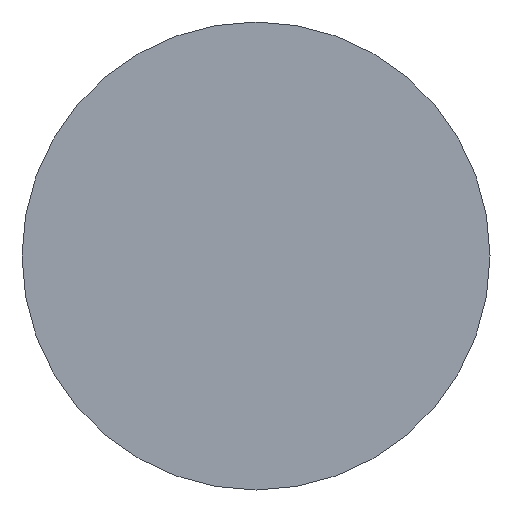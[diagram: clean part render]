
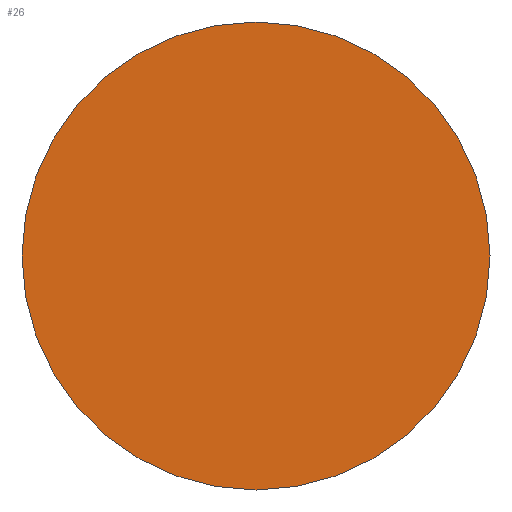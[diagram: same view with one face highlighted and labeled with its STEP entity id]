
A CAD part, front view. The second image highlights one B-rep face of the part: STEP entity #26.
In plain terms, the highlighted planar face has unit normal (0, -1, 0).
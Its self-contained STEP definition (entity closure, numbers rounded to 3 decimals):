
#3 = EDGE_CURVE ( 'NONE', #118, #5, #77, .T. ) ;
#5 = VERTEX_POINT ( 'NONE', #42 ) ;
#14 = ORIENTED_EDGE ( 'NONE', *, *, #125, .F. ) ;
#15 = DIRECTION ( 'NONE',  ( 0., 1., 0. ) ) ;
#22 = AXIS2_PLACEMENT_3D ( 'NONE', #32, #51, #72 ) ;
#26 = ADVANCED_FACE ( 'NONE', ( #84 ), #101, .F. ) ;
#27 = AXIS2_PLACEMENT_3D ( 'NONE', #102, #46, #114 ) ;
#32 = CARTESIAN_POINT ( 'NONE',  ( 0., 0., 0. ) ) ;
#38 = ORIENTED_EDGE ( 'NONE', *, *, #3, .F. ) ;
#41 = EDGE_LOOP ( 'NONE', ( #38, #14 ) ) ;
#42 = CARTESIAN_POINT ( 'NONE',  ( 0., 0., 1.5 ) ) ;
#46 = DIRECTION ( 'NONE',  ( 0., 1., 0. ) ) ;
#49 = CIRCLE ( 'NONE', #22, 1.5 ) ;
#51 = DIRECTION ( 'NONE',  ( 0., 1., 0. ) ) ;
#64 = CARTESIAN_POINT ( 'NONE',  ( 0., 0., 0. ) ) ;
#72 = DIRECTION ( 'NONE',  ( 0., 0., 1. ) ) ;
#77 = CIRCLE ( 'NONE', #93, 1.5 ) ;
#84 = FACE_OUTER_BOUND ( 'NONE', #41, .T. ) ;
#93 = AXIS2_PLACEMENT_3D ( 'NONE', #64, #15, #121 ) ;
#100 = CARTESIAN_POINT ( 'NONE',  ( 0., 0., -1.5 ) ) ;
#101 = PLANE ( 'NONE',  #27 ) ;
#102 = CARTESIAN_POINT ( 'NONE',  ( 0., 0., 0. ) ) ;
#114 = DIRECTION ( 'NONE',  ( 0., 0., 1. ) ) ;
#118 = VERTEX_POINT ( 'NONE', #100 ) ;
#121 = DIRECTION ( 'NONE',  ( 0., 0., 1. ) ) ;
#125 = EDGE_CURVE ( 'NONE', #5, #118, #49, .T. ) ;
